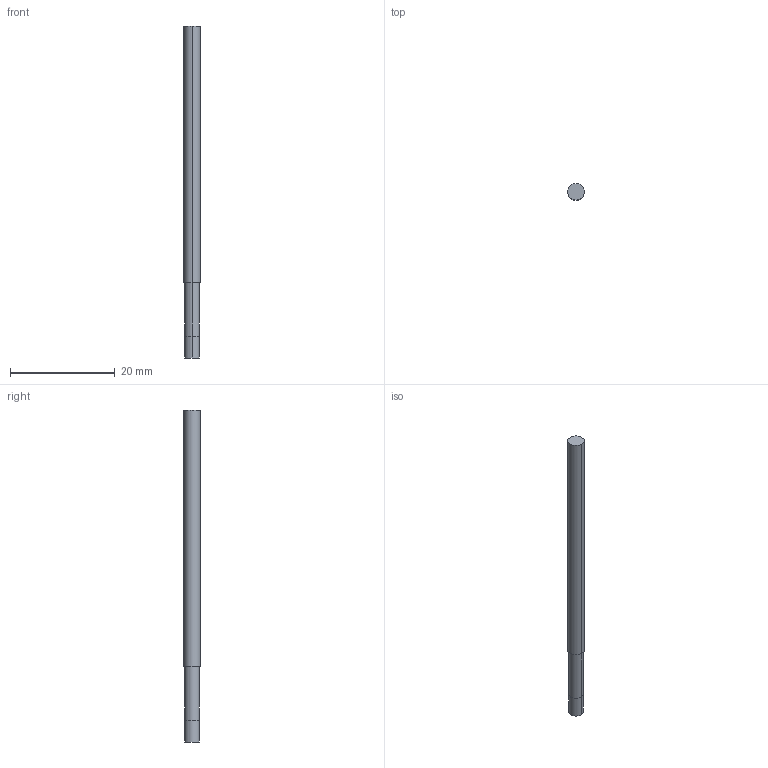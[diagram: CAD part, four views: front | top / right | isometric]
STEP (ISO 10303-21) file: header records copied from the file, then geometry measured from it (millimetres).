
FILE_DESCRIPTION((' '),'2;1');
FILE_NAME( '3MVS1094N5AH.stp', '2026-01-21T19:26:15', (' '), ('--- Datakit www.datakit.com---'), ' Datakit CrossCadWare V2025.4 Sep 19 2025', 'Mastercam 2027', ' ');
FILE_SCHEMA(('AUTOMOTIVE_DESIGN { 1 0 10303 214 1 1 1 1 }'));
Length unit declared in the file: inch
Products named in the file (1): 3MVS1094N5AH
Bounding box: 3.17 x 3.17 x 63.5 mm (x, y, z)
Volume: 475.9 mm3; surface area: 631.2 mm2
Topology: 1 solids, 1 shells, 9 faces, 16 edges, 10 vertices
Faces by surface type: cylinder 6, plane 3
Entity records: 302 total; most frequent: DIRECTION 54, CARTESIAN_POINT 40, ORIENTED_EDGE 32, AXIS2_PLACEMENT_3D 24, EDGE_CURVE 16, VERTEX_POINT 10, CIRCLE 10, EDGE_LOOP 10
